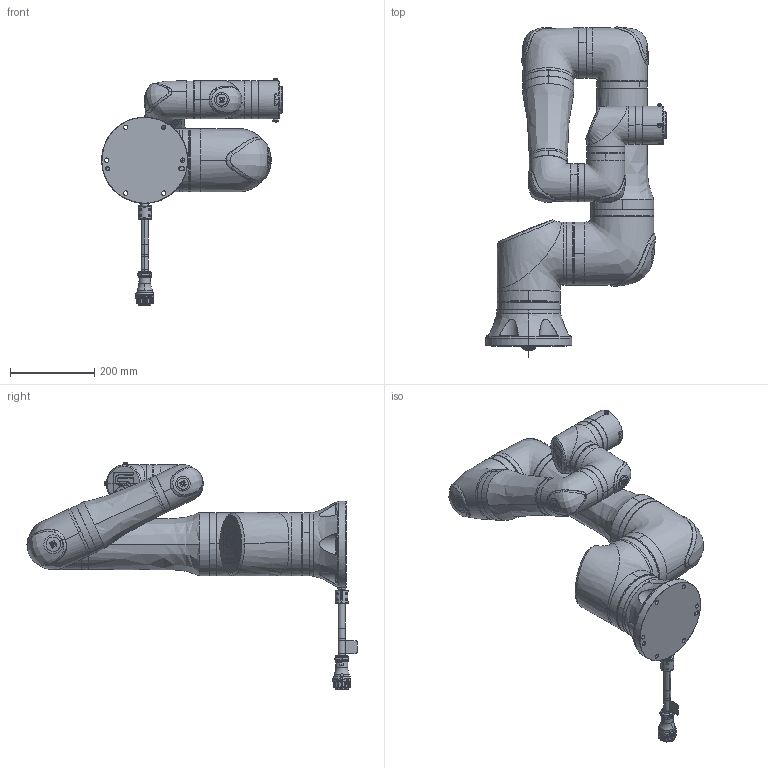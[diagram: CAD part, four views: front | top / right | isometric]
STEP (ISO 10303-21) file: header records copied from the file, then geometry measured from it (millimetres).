
FILE_DESCRIPTION (( 'STEP AP214' ), '1' );
FILE_NAME ('774-490-01_Filled.STEP', '2026-06-24T07:12:57', ( '' ), ( '' ), 'SwSTEP 2.0', 'SolidWorks 2025', '' );
FILE_SCHEMA (( 'AUTOMOTIVE_DESIGN' ));
Length unit declared in the file: millimetre
Products named in the file (8): C-2011370; C-2011372; C-2011373; C-2011374; C-2011375; C-2011376; 774-490-01_Filled; C-2011371
Assembly tree (7 placements, depth 2):
  774-490-01_Filled
    C-2011370
    C-2011371
    C-2011372
    C-2011373
    C-2011374
    C-2011375
    C-2011376
Bounding box: 427.71 x 781.69 x 538.01 mm (x, y, z)
Volume: 21966858.3 mm3; surface area: 914574.1 mm2
Topology: 7 solids, 7 shells, 2126 faces, 5414 edges, 3357 vertices
Faces by surface type: bspline 1007, cylinder 482, plane 374, cone 144, torus 105, sphere 14
Entity records: 123695 total; most frequent: CARTESIAN_POINT 80272, ORIENTED_EDGE 10756, DIRECTION 6460, EDGE_CURVE 5378, VERTEX_POINT 3357, AXIS2_PLACEMENT_3D 2545, B_SPLINE_CURVE_WITH_KNOTS 2370, EDGE_LOOP 2251
